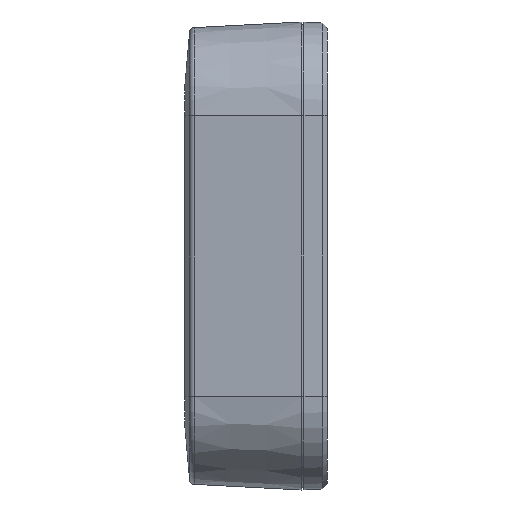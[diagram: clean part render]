
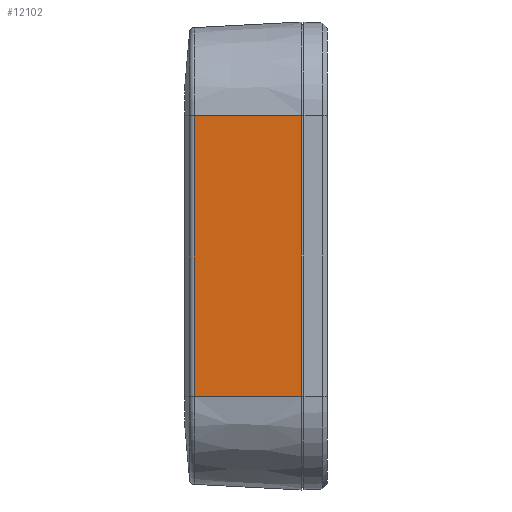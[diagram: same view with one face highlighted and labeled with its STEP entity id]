
A CAD part, left-side view. The second image highlights one B-rep face of the part: STEP entity #12102.
In plain terms, the highlighted planar face has unit normal (-0.999, 0.052, 0).
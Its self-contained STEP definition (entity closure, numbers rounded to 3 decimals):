
#350 = CARTESIAN_POINT ( 'NONE',  ( -75., 0., 30. ) ) ;
#507 = CARTESIAN_POINT ( 'NONE',  ( -75., 0., -30. ) ) ;
#640 = DIRECTION ( 'NONE',  ( -0.999, 0.052, 0. ) ) ;
#686 = ORIENTED_EDGE ( 'NONE', *, *, #2205, .T. ) ;
#728 = VECTOR ( 'NONE', #2834, 1000. ) ;
#779 = PLANE ( 'NONE',  #9202 ) ;
#1069 = CARTESIAN_POINT ( 'NONE',  ( -73.795, 22.989, -30. ) ) ;
#1611 = VECTOR ( 'NONE', #2127, 1000. ) ;
#1676 = CARTESIAN_POINT ( 'NONE',  ( -75., 0., -30. ) ) ;
#2127 = DIRECTION ( 'NONE',  ( 0., 0., -1. ) ) ;
#2205 = EDGE_CURVE ( 'NONE', #8091, #8322, #5224, .T. ) ;
#2267 = DIRECTION ( 'NONE',  ( 0., 0., 1. ) ) ;
#2603 = CARTESIAN_POINT ( 'NONE',  ( -73.795, 22.989, -30. ) ) ;
#2634 = ORIENTED_EDGE ( 'NONE', *, *, #6254, .F. ) ;
#2834 = DIRECTION ( 'NONE',  ( -0.052, -0.999, 0. ) ) ;
#3493 = VECTOR ( 'NONE', #11873, 1000. ) ;
#3701 = VECTOR ( 'NONE', #2267, 1000. ) ;
#4734 = CARTESIAN_POINT ( 'NONE',  ( -75., 0., 30. ) ) ;
#4744 = ORIENTED_EDGE ( 'NONE', *, *, #7221, .T. ) ;
#5224 = LINE ( 'NONE', #350, #3701 ) ;
#5931 = EDGE_CURVE ( 'NONE', #10871, #8091, #6923, .T. ) ;
#6254 = EDGE_CURVE ( 'NONE', #10769, #8322, #8362, .T. ) ;
#6923 = LINE ( 'NONE', #1676, #3493 ) ;
#7221 = EDGE_CURVE ( 'NONE', #10769, #10871, #7974, .T. ) ;
#7813 = FACE_OUTER_BOUND ( 'NONE', #11569, .T. ) ;
#7974 = LINE ( 'NONE', #1069, #1611 ) ;
#8091 = VERTEX_POINT ( 'NONE', #507 ) ;
#8322 = VERTEX_POINT ( 'NONE', #11542 ) ;
#8362 = LINE ( 'NONE', #4734, #728 ) ;
#8520 = CARTESIAN_POINT ( 'NONE',  ( -73.795, 22.989, 30. ) ) ;
#8678 = CARTESIAN_POINT ( 'NONE',  ( -75., 0., 30. ) ) ;
#9202 = AXIS2_PLACEMENT_3D ( 'NONE', #8678, #640, #11840 ) ;
#10769 = VERTEX_POINT ( 'NONE', #8520 ) ;
#10871 = VERTEX_POINT ( 'NONE', #2603 ) ;
#11478 = ORIENTED_EDGE ( 'NONE', *, *, #5931, .T. ) ;
#11542 = CARTESIAN_POINT ( 'NONE',  ( -75., 0., 30. ) ) ;
#11569 = EDGE_LOOP ( 'NONE', ( #2634, #4744, #11478, #686 ) ) ;
#11840 = DIRECTION ( 'NONE',  ( -0.052, -0.999, 0. ) ) ;
#11873 = DIRECTION ( 'NONE',  ( -0.052, -0.999, 0. ) ) ;
#12102 = ADVANCED_FACE ( 'NONE', ( #7813 ), #779, .T. ) ;
